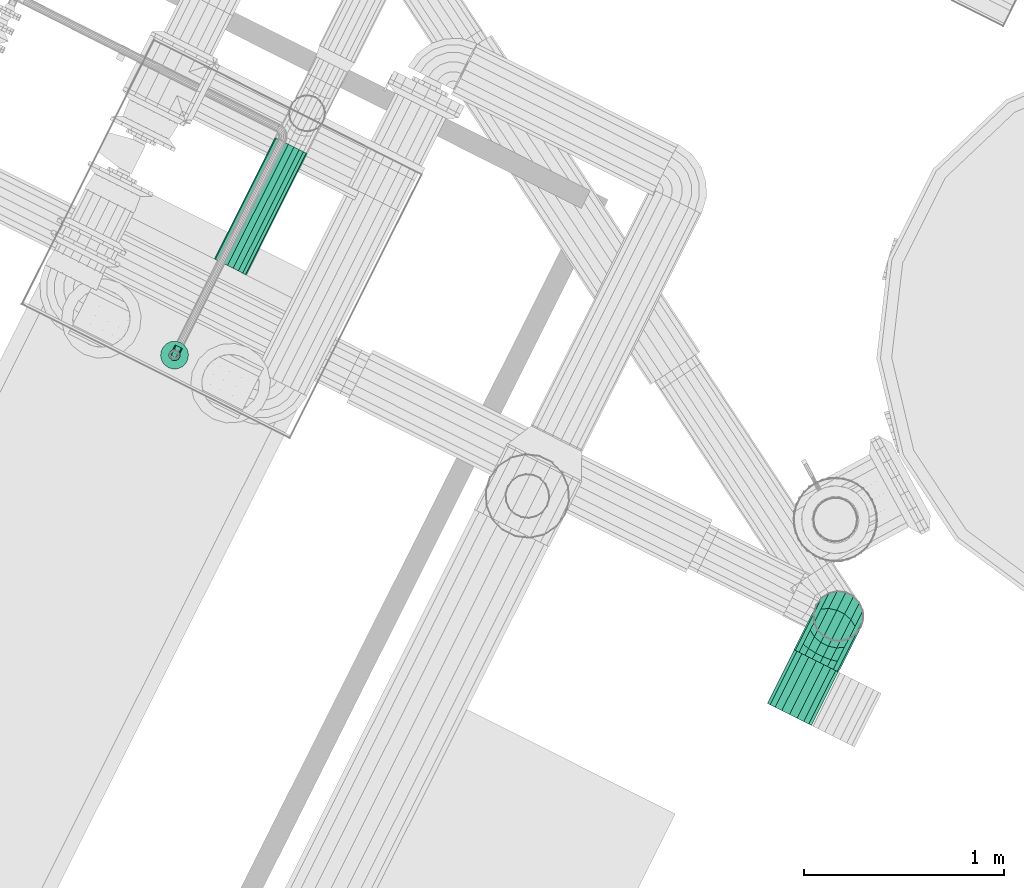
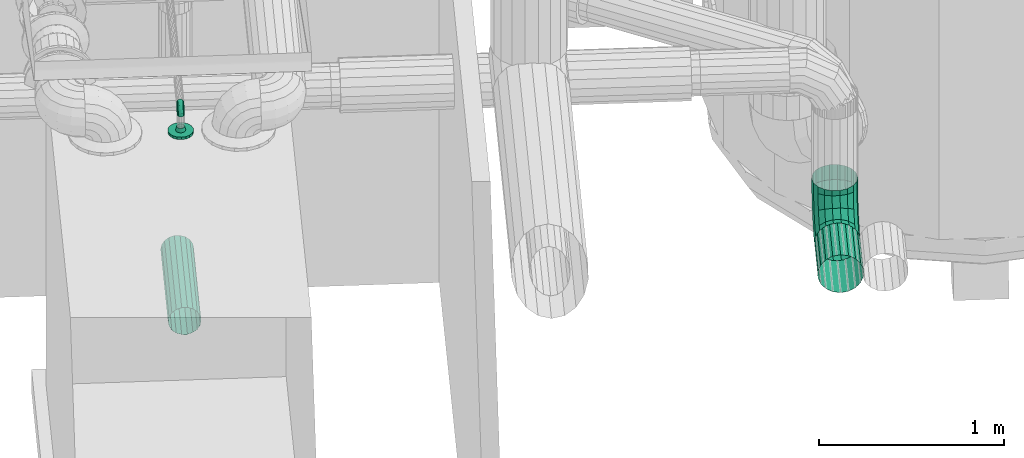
# One storey, part 93 of 206: 3 flow segments, 2 flow fittings.
"""IFC2X3 building model written with IfcOpenShell, lengths in metres."""

import ifcopenshell
import ifcopenshell.guid

model = None  # the IFC model being written
_history = None  # IfcOwnerHistory: only IFC2X3 demands one
_inside = {}  # id of a spatial element -> (the spatial element, [elements in it])
_under = {}  # id of a project, library or spatial element -> (it, [spatial elements below it])
_declared = {}  # id of a project -> (the project, [libraries it declares])
_typed = {}  # id of a type object -> (the type object, [elements of that type])
_made_of = {}  # id of a material, layer set ... -> (it, [elements and type objects made of it])


def new_model(schema):
    """Start an empty IFC model of exactly this schema.

    Asked for "IFC4X3", IfcOpenShell would pick the latest addendum, in which some entities
    have other attributes; the version numbers below select the first issue.
    IFC2X3 requires an IfcOwnerHistory on every rooted entity: one is made here for all.
    """
    global model, _history
    if schema == "IFC4X3":
        model = ifcopenshell.file(schema_version=(4, 3, 0, 0))
    else:
        model = ifcopenshell.file(schema=schema)
    _inside.clear()
    _under.clear()
    _declared.clear()
    _typed.clear()
    _made_of.clear()
    _history = None
    if model.schema == "IFC2X3":
        org = make("IfcOrganization", Name="unknown")
        user = make(
            "IfcPersonAndOrganization",
            ThePerson=make("IfcPerson", FamilyName="unknown"),
            TheOrganization=org,
        )
        app = make(
            "IfcApplication",
            ApplicationDeveloper=org,
            Version="unknown",
            ApplicationFullName="unknown",
            ApplicationIdentifier="unknown",
        )
        _history = make(
            "IfcOwnerHistory",
            OwningUser=user,
            OwningApplication=app,
            ChangeAction="ADDED",
            CreationDate=0,
        )
    return model


def make(cls, **values):
    """One entity of the class cls with the attributes given. An attribute that is None is left unset."""
    return model.create_entity(
        cls, **{name: value for name, value in values.items() if value is not None}
    )


def rooted(cls, **values):
    """An entity with a GlobalId (a new one), such as an element, a storey or a relation."""
    return make(cls, GlobalId=ifcopenshell.guid.new(), OwnerHistory=_history, **values)


def si_unit(unit_type, name, prefix=None):
    """IfcSIUnit, for example si_unit("LENGTHUNIT", "METRE", prefix="MILLI")."""
    return make("IfcSIUnit", UnitType=unit_type, Prefix=prefix, Name=name)


def derived_unit(unit_type, elements):
    """IfcDerivedUnit: a product of units, each with its exponent."""
    return make(
        "IfcDerivedUnit",
        Elements=[
            make("IfcDerivedUnitElement", Unit=unit, Exponent=power)
            for unit, power in elements
        ],
        UnitType=unit_type,
    )


def assignment(units):
    """IfcUnitAssignment: the units of a project."""
    return None if units is None else make("IfcUnitAssignment", Units=units)


def point(xyz):
    """IfcCartesianPoint."""
    return None if xyz is None else make("IfcCartesianPoint", Coordinates=xyz)


def direction(xyz):
    """IfcDirection."""
    return None if xyz is None else make("IfcDirection", DirectionRatios=xyz)


def frame(location, z_axis=None, x_axis=None):
    """IfcAxis2Placement3D, a coordinate frame: its origin and axes. An axis left out is left unset."""
    return make(
        "IfcAxis2Placement3D",
        Location=point(location),
        Axis=direction(z_axis),
        RefDirection=direction(x_axis),
    )


def origin():
    """The frame at (0, 0, 0) with its axes left unset."""
    return frame((0.0, 0.0, 0.0))


def place(relative_to, where):
    """IfcLocalPlacement: puts the frame where relative to a parent placement (None: the world)."""
    return make(
        "IfcLocalPlacement", PlacementRelTo=relative_to, RelativePlacement=where
    )


def context(
    kind, dimensions, precision=None, world=None, true_north=None, identifier=None
):
    """IfcGeometricRepresentationContext, for example the 3D "Model" context."""
    return make(
        "IfcGeometricRepresentationContext",
        ContextIdentifier=identifier,
        ContextType=kind,
        CoordinateSpaceDimension=dimensions,
        Precision=precision,
        WorldCoordinateSystem=world,
        TrueNorth=true_north,
    )


def subcontext(parent, identifier, kind, view, scale=None):
    """IfcGeometricRepresentationSubContext, for example "Body" below "Model"."""
    return make(
        "IfcGeometricRepresentationSubContext",
        ContextIdentifier=identifier,
        ContextType=kind,
        ParentContext=parent,
        TargetScale=scale,
        TargetView=view,
    )


def project(units=None, contexts=None):
    """IfcProject with its units and contexts."""
    return rooted(
        "IfcProject",
        Name="project",
        RepresentationContexts=contexts,
        UnitsInContext=assignment(units),
    )


def spatial(cls, under=None, at=None, **own):
    """A site, building, storey or space (cls), placed at a placement, below another one or the project."""
    s = rooted(cls, ObjectPlacement=at, **own)
    if under is not None:
        _under.setdefault(under.id(), (under, []))[1].append(s)
    return s


def faces_of(points, faces, orient=None, outer=None):
    """IfcFace entities. A face is a list of loops; a loop is a list of indices into points, from 0.

    orient and outer hold one flag for each loop. By default every Orientation is true, the
    first loop of a face is its IfcFaceOuterBound and the others are IfcFaceBound.
    """
    made = []
    for i, loops in enumerate(faces):
        bounds = []
        for j, loop in enumerate(loops):
            is_outer = j == 0 if outer is None else outer[i][j]
            bounds.append(
                make(
                    "IfcFaceOuterBound" if is_outer else "IfcFaceBound",
                    Bound=make("IfcPolyLoop", Polygon=[points[k] for k in loop]),
                    Orientation=True if orient is None else orient[i][j],
                )
            )
        made.append(make("IfcFace", Bounds=bounds))
    return made


def face_set(faces, orient=None, outer=None):
    """The faces of one IfcConnectedFaceSet. surface_model builds it on its shared points."""
    return ("IfcConnectedFaceSet", faces, orient, outer)


def surface_model(cls, points, shells):
    """IfcFaceBasedSurfaceModel or IfcShellBasedSurfaceModel (cls): surfaces that need not close."""
    shared = [point(p) for p in points]
    made = [make(c, CfsFaces=faces_of(shared, fs, o, b)) for c, fs, o, b in shells]
    if cls == "IfcFaceBasedSurfaceModel":
        return make(cls, FbsmFaces=made)
    return make(cls, SbsmBoundary=made)


def shape(context_of_items, identifier, shape_type, items):
    """IfcShapeRepresentation: the items that make up one representation, for example the "Body"."""
    return make(
        "IfcShapeRepresentation",
        ContextOfItems=context_of_items,
        RepresentationIdentifier=identifier,
        RepresentationType=shape_type,
        Items=items,
    )


def source(mapping_origin, context_of_items, identifier, shape_type, items):
    """IfcRepresentationMap: a shape defined once, which mapped items show again and again."""
    return make(
        "IfcRepresentationMap",
        MappingOrigin=mapping_origin,
        MappedRepresentation=shape(context_of_items, identifier, shape_type, items),
    )


def transform(
    local_origin,
    x_axis=None,
    y_axis=None,
    z_axis=None,
    scale=None,
    scale2=None,
    scale3=None,
    uniform=True,
):
    """IfcCartesianTransformationOperator3D, or its non-uniform kind. x_axis, y_axis, z_axis: its Axis1, 2, 3."""
    if uniform:
        return make(
            "IfcCartesianTransformationOperator3D",
            Axis1=direction(x_axis),
            Axis2=direction(y_axis),
            LocalOrigin=point(local_origin),
            Scale=scale,
            Axis3=direction(z_axis),
        )
    return make(
        "IfcCartesianTransformationOperator3DnonUniform",
        Axis1=direction(x_axis),
        Axis2=direction(y_axis),
        LocalOrigin=point(local_origin),
        Scale=scale,
        Axis3=direction(z_axis),
        Scale2=scale2,
        Scale3=scale3,
    )


def mapped(mapping_source, mapping_target):
    """IfcMappedItem: shows the shape of a source again, moved by a transform."""
    return make(
        "IfcMappedItem", MappingSource=mapping_source, MappingTarget=mapping_target
    )


def material(Name=None, Category=None):
    """IfcMaterial."""
    return make("IfcMaterial", Name=Name, Category=Category)


def made_of(thing, what):
    """Note that an element or type object is made of a material, layer set ...; save() writes the relation."""
    if what is not None:
        _made_of.setdefault(what.id(), (what, []))[1].append(thing)
    return thing


def type_object(cls, material=None, **own):
    """A type object (cls), such as IfcWallType, which elements share."""
    return made_of(rooted(cls, **own), material)


def type_shapes(of_type, sources):
    """Give a type object the sources (RepresentationMaps) that its elements show as mapped items."""
    of_type.RepresentationMaps = sources


def element(
    cls,
    number,
    at=None,
    inside=None,
    cuts=None,
    type_object=None,
    material=None,
    context=None,
    identifier="Body",
    shape_type=None,
    held_by="IfcProductDefinitionShape",
    body=None,
    shapes=None,
    **own,
):
    """One element of the class cls, such as IfcWall. Its Tag is "e" and its number.

    at: its placement. inside: the storey or other place that contains it. cuts: it is an
    opening in that element (IfcRelVoidsElement). A single representation is given by context,
    identifier, shape_type and body (its items); several are given by shapes. held_by: the class
    of the entity that holds the representations. save() writes the other relations.
    """
    e = rooted(cls, Tag="e%d" % number, ObjectPlacement=at, **own)
    if body is not None:
        shapes = [shape(context, identifier, shape_type, body)]
    if shapes is not None:
        e.Representation = make(held_by, Representations=shapes)
    if inside is not None:
        _inside.setdefault(inside.id(), (inside, []))[1].append(e)
    if cuts is not None:
        rooted(
            "IfcRelVoidsElement", RelatingBuildingElement=cuts, RelatedOpeningElement=e
        )
    if type_object is not None:
        _typed.setdefault(type_object.id(), (type_object, []))[1].append(e)
    return made_of(e, material)


def aggregate(whole, parts):
    """IfcRelAggregates: a whole, such as a stair, and the parts it consists of."""
    return rooted("IfcRelAggregates", RelatingObject=whole, RelatedObjects=parts)


def save(model, path):
    """Write the relations noted so far, then the file.

    IfcRelAggregates (storeys below a building ...), IfcRelContainedInSpatialStructure (elements
    in a storey), IfcRelDefinesByType, IfcRelAssociatesMaterial and IfcRelDeclares: one each for
    every whole, place, type object, material and project.
    """
    for whole, parts in _under.values():
        aggregate(whole, parts)
    for where, things in _inside.values():
        rooted(
            "IfcRelContainedInSpatialStructure",
            RelatedElements=things,
            RelatingStructure=where,
        )
    for kind, things in _typed.values():
        rooted("IfcRelDefinesByType", RelatedObjects=things, RelatingType=kind)
    for what, things in _made_of.values():
        rooted("IfcRelAssociatesMaterial", RelatedObjects=things, RelatingMaterial=what)
    for by, libraries in _declared.values():
        rooted("IfcRelDeclares", RelatingContext=by, RelatedDefinitions=libraries)
    model.write(path)


model = new_model("IFC2X3")

# Units and contexts
model_context = context("Model", 3, precision=5.2338327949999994e-05, world=origin(), true_north=direction((0.0, 1.0)))
body_context = subcontext(model_context, "Body", "Model", "MODEL_VIEW")
ifc_project = project(units=[si_unit("LENGTHUNIT", "METRE"), si_unit("AREAUNIT", "SQUARE_METRE"), si_unit("VOLUMEUNIT", "CUBIC_METRE"), si_unit("MASSUNIT", "GRAM", prefix="KILO"), si_unit("PLANEANGLEUNIT", "RADIAN"), derived_unit("THERMALTRANSMITTANCEUNIT", [(si_unit("MASSUNIT", "GRAM", prefix="KILO"), 1), (si_unit("THERMODYNAMICTEMPERATUREUNIT", "KELVIN"), -1), (si_unit("TIMEUNIT", "SECOND"), -3)])], contexts=[model_context])

# Site, building, storey
site_placement = place(None, frame((0.0, 0.0, 0.0), z_axis=(0.0, 0.0, 1.0), x_axis=(0.8939966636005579, -0.4480736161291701, 0.0)))
site = spatial("IfcSite", under=ifc_project, at=site_placement, Name="Default", CompositionType="ELEMENT")
building_placement = place(site_placement, origin())
building = spatial("IfcBuilding", under=site, at=building_placement, CompositionType="ELEMENT")
storey_placement = place(building_placement, origin())
storey = spatial("IfcBuildingStorey", under=building, at=storey_placement, Name="Erdgeschoss", CompositionType="ELEMENT", Elevation=0.0)

# Flow segment
ifc_material_1 = material(Name="IfcSurfaceStyle #251447")
distribution_element_type_1 = type_object("IfcDistributionElementType", Name="Wickelfalzrohr 281979:Wickelfalzrohr 281979", material=ifc_material_1)
shared_shape_1 = source(origin(), body_context, "Body", "SurfaceModel", [
    surface_model("IfcFaceBasedSurfaceModel", [(34.157571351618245, 8.244603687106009, 1.3549999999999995), (34.200323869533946, 8.244603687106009, 1.3474615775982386), (34.200323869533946, 8.544603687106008, 1.3474615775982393), (34.157571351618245, 8.54460368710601, 1.355), (34.237919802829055, 8.244603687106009, 1.3257555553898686), (34.237919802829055, 8.54460368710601, 1.3257555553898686), (34.2658245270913, 8.244603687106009, 1.2924999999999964), (34.2658245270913, 8.54460368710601, 1.2924999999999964), (34.28067232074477, 8.244603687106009, 1.2517060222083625), (34.28067232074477, 8.54460368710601, 1.2517060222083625), (34.280672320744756, 8.244603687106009, 1.2082939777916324), (34.280672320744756, 8.54460368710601, 1.2082939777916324), (34.2658245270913, 8.244603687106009, 1.1674999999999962), (34.2658245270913, 8.54460368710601, 1.1674999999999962), (34.237919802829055, 8.244603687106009, 1.1342444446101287), (34.237919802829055, 8.54460368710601, 1.1342444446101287), (34.200323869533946, 8.244603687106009, 1.112538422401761), (34.200323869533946, 8.54460368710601, 1.112538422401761), (34.15757135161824, 8.244603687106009, 1.105000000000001), (34.157571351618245, 8.54460368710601, 1.1050000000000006), (34.114818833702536, 8.244603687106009, 1.1125384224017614), (34.114818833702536, 8.54460368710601, 1.1125384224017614), (34.07722290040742, 8.244603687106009, 1.1342444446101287), (34.07722290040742, 8.54460368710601, 1.1342444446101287), (34.04931817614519, 8.244603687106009, 1.1674999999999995), (34.04931817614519, 8.54460368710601, 1.1674999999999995), (34.03447038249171, 8.244603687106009, 1.208293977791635), (34.03447038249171, 8.54460368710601, 1.208293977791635), (34.03447038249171, 8.244603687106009, 1.2517060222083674), (34.03447038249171, 8.54460368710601, 1.2517060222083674), (34.049318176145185, 8.244603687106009, 1.2925000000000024), (34.049318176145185, 8.54460368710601, 1.2925000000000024), (34.07722290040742, 8.244603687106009, 1.3257555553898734), (34.07722290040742, 8.54460368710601, 1.3257555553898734), (34.11481883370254, 8.244603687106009, 1.3474615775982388), (34.11481883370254, 8.54460368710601, 1.3474615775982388)], [face_set([[[0, 1, 2, 3]], [[1, 4, 5, 2]], [[4, 6, 7, 5]], [[6, 8, 9, 7]], [[8, 10, 11, 9]], [[10, 12, 13, 11]], [[12, 14, 15, 13]], [[14, 16, 17, 15]], [[16, 18, 19, 17]], [[18, 20, 21, 19]], [[20, 22, 23, 21]], [[22, 24, 25, 23]], [[24, 26, 27, 25]], [[26, 28, 29, 27]], [[28, 30, 31, 29]], [[30, 32, 33, 31]], [[32, 34, 35, 33]], [[34, 0, 3, 35]]])]),
])
type_shapes(distribution_element_type_1, [shared_shape_1])
flow_segment_1_placement = place(storey_placement, origin())
element("IfcFlowSegment", 1, at=flow_segment_1_placement, inside=storey, type_object=distribution_element_type_1, material=ifc_material_1, Name="Wickelfalzrohr", ObjectType="Wickelfalzrohr", context=body_context, shape_type="MappedRepresentation", body=[
    mapped(shared_shape_1, transform((0.0, 0.0, 0.0), scale=1.0)),
])

# Flow fitting
distribution_element_type_2 = type_object("IfcDistributionElementType", material=ifc_material_1)
shared_shape_2 = source(origin(), body_context, "Body", "SurfaceModel", [
    surface_model("IfcFaceBasedSurfaceModel", [(34.03257135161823, 8.54460368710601, 1.23), (34.040109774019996, 8.54460368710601, 1.2727525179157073), (34.040109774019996, 8.600135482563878, 1.2727525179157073), (34.03257135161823, 8.611590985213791, 1.23), (34.061815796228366, 8.54460368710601, 1.3103484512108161), (34.061815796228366, 8.59006168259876, 1.3103484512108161), (34.09507135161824, 8.54460368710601, 1.3382531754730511), (34.09507135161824, 8.58258463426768, 1.3382531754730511), (34.13586532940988, 8.54460368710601, 1.3531009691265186), (34.13586532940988, 8.57860617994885, 1.3531009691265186), (34.179277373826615, 8.54460368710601, 1.3531009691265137), (34.179277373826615, 8.57860617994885, 1.3531009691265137), (34.22007135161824, 8.54460368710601, 1.3382531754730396), (34.22007135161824, 8.58258463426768, 1.3382531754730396), (34.253326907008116, 8.54460368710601, 1.3103484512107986), (34.253326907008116, 8.59006168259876, 1.3103484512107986), (34.27503292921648, 8.54460368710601, 1.272752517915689), (34.27503292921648, 8.600135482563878, 1.272752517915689), (34.28257135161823, 8.54460368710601, 1.2299999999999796), (34.28257135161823, 8.611590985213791, 1.2299999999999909), (34.27503292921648, 8.54460368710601, 1.1872474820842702), (34.27503292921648, 8.623046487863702, 1.1872474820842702), (34.253326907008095, 8.54460368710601, 1.1496515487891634), (34.253326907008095, 8.633120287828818, 1.1496515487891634), (34.22007135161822, 8.54460368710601, 1.1217468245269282), (34.22007135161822, 8.640597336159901, 1.1217468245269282), (34.17927737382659, 8.54460368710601, 1.1068990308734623), (34.17927737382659, 8.644575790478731, 1.1068990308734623), (34.13586532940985, 8.54460368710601, 1.1068990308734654), (34.13586532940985, 8.644575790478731, 1.1068990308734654), (34.09507135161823, 8.54460368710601, 1.12174682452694), (34.09507135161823, 8.640597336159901, 1.12174682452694), (34.06181579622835, 8.54460368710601, 1.1496515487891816), (34.06181579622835, 8.633120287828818, 1.1496515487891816), (34.04010977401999, 8.54460368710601, 1.1872474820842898), (34.04010977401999, 8.623046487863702, 1.1872474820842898), (34.04010977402, 8.69631937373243, 1.3282843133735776), (34.032571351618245, 8.727616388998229, 1.2969872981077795), (34.06181579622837, 8.66879724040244, 1.3558064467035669), (34.09507135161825, 8.648369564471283, 1.3762341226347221), (34.13586532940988, 8.637500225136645, 1.3871034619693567), (34.17927737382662, 8.637500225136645, 1.3871034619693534), (34.220071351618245, 8.648369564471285, 1.3762341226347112), (34.253326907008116, 8.66879724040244, 1.3558064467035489), (34.275032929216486, 8.696319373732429, 1.3282843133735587), (34.28257135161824, 8.727616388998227, 1.2969872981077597), (34.27503292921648, 8.758913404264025, 1.265690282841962), (34.25332690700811, 8.786435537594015, 1.2381681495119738), (34.22007135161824, 8.806863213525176, 1.217740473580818), (34.17927737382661, 8.817732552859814, 1.2068711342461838), (34.13586532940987, 8.817732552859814, 1.2068711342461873), (34.09507135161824, 8.806863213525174, 1.2177404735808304), (34.06181579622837, 8.786435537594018, 1.2381681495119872), (34.040109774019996, 8.758913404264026, 1.2656902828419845), (34.04010977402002, 8.751851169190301, 1.4244682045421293), (34.03257135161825, 8.794603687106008, 1.4130127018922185), (34.06181579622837, 8.714255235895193, 1.434542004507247), (34.09507135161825, 8.686350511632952, 1.4420190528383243), (34.13586532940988, 8.671502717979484, 1.4459975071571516), (34.17927737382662, 8.671502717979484, 1.4459975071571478), (34.22007135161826, 8.686350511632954, 1.442019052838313), (34.253326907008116, 8.714255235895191, 1.4345420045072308), (34.27503292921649, 8.751851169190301, 1.4244682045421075), (34.28257135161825, 8.794603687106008, 1.4130127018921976), (34.27503292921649, 8.837356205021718, 1.4015571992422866), (34.25332690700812, 8.874952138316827, 1.3914833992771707), (34.22007135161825, 8.902856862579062, 1.3840063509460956), (34.17927737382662, 8.917704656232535, 1.3800278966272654), (34.13586532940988, 8.917704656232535, 1.3800278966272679), (34.09507135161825, 8.902856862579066, 1.3840063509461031), (34.06181579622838, 8.874952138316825, 1.3914833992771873), (34.04010977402, 8.837356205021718, 1.4015571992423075), (34.04010977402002, 8.751851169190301, 1.4799999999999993), (34.03257135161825, 8.79460368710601, 1.4799999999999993), (34.06181579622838, 8.714255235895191, 1.4799999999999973), (34.095071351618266, 8.686350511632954, 1.4799999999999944), (34.13586532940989, 8.671502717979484, 1.4799999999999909), (34.17927737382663, 8.671502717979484, 1.4799999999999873), (34.22007135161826, 8.686350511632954, 1.4799999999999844), (34.25332690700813, 8.714255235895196, 1.47999999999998), (34.2750329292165, 8.751851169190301, 1.4799999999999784), (34.28257135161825, 8.79460368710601, 1.4799999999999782), (34.27503292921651, 8.837356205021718, 1.4799999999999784), (34.25332690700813, 8.874952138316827, 1.47999999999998), (34.22007135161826, 8.902856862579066, 1.479999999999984), (34.17927737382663, 8.917704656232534, 1.4799999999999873), (34.13586532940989, 8.917704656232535, 1.479999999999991), (34.09507135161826, 8.902856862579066, 1.4799999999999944), (34.06181579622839, 8.874952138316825, 1.4799999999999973), (34.04010977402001, 8.83735620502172, 1.4799999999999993)], [face_set([[[0, 1, 2, 3]], [[1, 4, 5, 2]], [[4, 6, 7, 5]], [[6, 8, 9, 7]], [[8, 10, 11, 9]], [[10, 12, 13, 11]], [[12, 14, 15, 13]], [[14, 16, 17, 15]], [[16, 18, 19, 17]], [[18, 20, 21, 19]], [[20, 22, 23, 21]], [[22, 24, 25, 23]], [[24, 26, 27, 25]], [[26, 28, 29, 27]], [[28, 30, 31, 29]], [[30, 32, 33, 31]], [[32, 34, 35, 33]], [[34, 0, 3, 35]], [[3, 2, 36, 37]], [[2, 5, 38, 36]], [[5, 7, 39, 38]], [[7, 9, 40, 39]], [[9, 11, 41, 40]], [[11, 13, 42, 41]], [[13, 15, 43, 42]], [[15, 17, 44, 43]], [[17, 19, 45, 44]], [[19, 21, 46, 45]], [[21, 23, 47, 46]], [[23, 25, 48, 47]], [[25, 27, 49, 48]], [[27, 29, 50, 49]], [[29, 31, 51, 50]], [[31, 33, 52, 51]], [[33, 35, 53, 52]], [[35, 3, 37, 53]], [[37, 36, 54, 55]], [[36, 38, 56, 54]], [[38, 39, 57, 56]], [[39, 40, 58, 57]], [[40, 41, 59, 58]], [[41, 42, 60, 59]], [[42, 43, 61, 60]], [[43, 44, 62, 61]], [[44, 45, 63, 62]], [[45, 46, 64, 63]], [[46, 47, 65, 64]], [[47, 48, 66, 65]], [[48, 49, 67, 66]], [[49, 50, 68, 67]], [[50, 51, 69, 68]], [[51, 52, 70, 69]], [[52, 53, 71, 70]], [[53, 37, 55, 71]], [[55, 54, 72, 73]], [[54, 56, 74, 72]], [[56, 57, 75, 74]], [[57, 58, 76, 75]], [[58, 59, 77, 76]], [[59, 60, 78, 77]], [[60, 61, 79, 78]], [[61, 62, 80, 79]], [[62, 63, 81, 80]], [[63, 64, 82, 81]], [[64, 65, 83, 82]], [[65, 66, 84, 83]], [[66, 67, 85, 84]], [[67, 68, 86, 85]], [[68, 69, 87, 86]], [[69, 70, 88, 87]], [[70, 71, 89, 88]], [[71, 55, 73, 89]]])]),
])
type_shapes(distribution_element_type_2, [shared_shape_2])
flow_fitting_1_placement = place(storey_placement, origin())
element("IfcFlowFitting", 2, at=flow_fitting_1_placement, inside=storey, type_object=distribution_element_type_2, material=ifc_material_1, Name="Segmentbogen 4 teilig", ObjectType="Segmentbogen 4 teilig", context=body_context, shape_type="MappedRepresentation", body=[
    mapped(shared_shape_2, transform((0.0, 0.0, 0.0), scale=1.0)),
])

# Flow segments
distribution_element_type_3 = type_object("IfcDistributionElementType", Name="Wickelfalzrohr 329044:Wickelfalzrohr 329044", material=ifc_material_1)
shared_shape_3 = source(origin(), body_context, "Body", "SurfaceModel", [
    surface_model("IfcFaceBasedSurfaceModel", [(30.560000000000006, 9.673208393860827, 0.5399999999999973), (30.56542766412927, 9.673208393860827, 0.5092181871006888), (30.56542766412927, 8.993208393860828, 0.5092181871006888), (30.560000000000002, 8.993208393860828, 0.5399999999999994), (30.581056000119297, 9.673208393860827, 0.4821491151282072), (30.581056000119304, 8.993208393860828, 0.48214911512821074), (30.605000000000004, 9.673208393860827, 0.46205771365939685), (30.60500000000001, 8.993208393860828, 0.4620577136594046), (30.634371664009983, 9.673208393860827, 0.4513673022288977), (30.63437166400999, 8.993208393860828, 0.4513673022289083), (30.665628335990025, 9.673208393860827, 0.45136730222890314), (30.66562833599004, 8.993208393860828, 0.45136730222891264), (30.695000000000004, 9.673208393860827, 0.46205771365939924), (30.695000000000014, 8.993208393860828, 0.4620577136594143), (30.718943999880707, 9.673208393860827, 0.4821491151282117), (30.71894399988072, 8.993208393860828, 0.48214911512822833), (30.73457233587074, 9.673208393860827, 0.509218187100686), (30.73457233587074, 8.993208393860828, 0.5092181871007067), (30.74, 9.673208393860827, 0.539999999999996), (30.740000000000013, 8.993208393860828, 0.5400000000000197), (30.734572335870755, 9.673208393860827, 0.5707818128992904), (30.734572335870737, 8.993208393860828, 0.5707818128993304), (30.718943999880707, 9.673208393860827, 0.5978508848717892), (30.718943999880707, 8.993208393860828, 0.5978508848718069), (30.695000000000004, 9.673208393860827, 0.6179422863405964), (30.695, 8.993208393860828, 0.6179422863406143), (30.665628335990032, 9.673208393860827, 0.6286326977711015), (30.66562833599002, 8.993208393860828, 0.6286326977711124), (30.63437166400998, 9.673208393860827, 0.628632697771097), (30.634371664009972, 8.993208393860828, 0.6286326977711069), (30.605, 9.673208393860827, 0.6179422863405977), (30.605, 8.993208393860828, 0.6179422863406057), (30.5810560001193, 9.673208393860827, 0.5978508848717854), (30.581056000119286, 8.993208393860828, 0.597850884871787), (30.565427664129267, 9.673208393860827, 0.5707818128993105), (30.565427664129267, 8.993208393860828, 0.5707818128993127)], [face_set([[[0, 1, 2, 3]], [[1, 4, 5, 2]], [[4, 6, 7, 5]], [[6, 8, 9, 7]], [[8, 10, 11, 9]], [[10, 12, 13, 11]], [[12, 14, 15, 13]], [[14, 16, 17, 15]], [[16, 18, 19, 17]], [[18, 20, 21, 19]], [[20, 22, 23, 21]], [[22, 24, 25, 23]], [[24, 26, 27, 25]], [[26, 28, 29, 27]], [[28, 30, 31, 29]], [[30, 32, 33, 31]], [[32, 34, 35, 33]], [[34, 0, 3, 35]]])]),
])
type_shapes(distribution_element_type_3, [shared_shape_3])
flow_segment_2_placement = place(storey_placement, origin())
element("IfcFlowSegment", 3, at=flow_segment_2_placement, inside=storey, type_object=distribution_element_type_3, material=ifc_material_1, Name="Wickelfalzrohr", ObjectType="Wickelfalzrohr", context=body_context, shape_type="MappedRepresentation", body=[
    mapped(shared_shape_3, transform((0.0, 0.0, 0.0), scale=1.0)),
])
ifc_material_2 = material(Name="IfcSurfaceStyle #352577")
distribution_element_type_4 = type_object("IfcDistributionElementType", Name="Rohrbogen 612311:Rohrbogen 612311", material=ifc_material_2)
shared_shape_4 = source(origin(), body_context, "Body", "SurfaceModel", [
    surface_model("IfcFaceBasedSurfaceModel", [(30.59800000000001, 8.452370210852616, 2.2660000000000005), (30.605250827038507, 8.453648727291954, 2.2660000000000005), (30.605250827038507, 8.456973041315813, 2.2869888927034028), (30.59800000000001, 8.45575709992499, 2.287383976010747), (30.605250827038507, 8.466620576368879, 2.3059232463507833), (30.59800000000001, 8.465586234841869, 2.3066747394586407), (30.605250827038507, 8.481646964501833, 2.3209496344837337), (30.59800000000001, 8.480895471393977, 2.321983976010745), (30.605250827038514, 8.500581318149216, 2.3305971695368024), (30.59800000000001, 8.500186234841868, 2.331813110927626), (30.605250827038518, 8.521570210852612, 2.333921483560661), (30.598000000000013, 8.521570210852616, 2.335200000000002), (30.61162709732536, 8.457330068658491, 2.266), (30.61162709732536, 8.460474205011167, 2.2858512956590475), (30.61162709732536, 8.469598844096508, 2.303759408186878), (30.61162709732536, 8.48381080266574, 2.3179713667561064), (30.611627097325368, 8.501718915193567, 2.3270960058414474), (30.61162709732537, 8.521570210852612, 2.3302401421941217), (30.616359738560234, 8.462970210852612, 2.266000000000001), (30.616359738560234, 8.465838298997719, 2.2841083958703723), (30.616359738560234, 8.474161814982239, 2.3004442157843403), (30.616359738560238, 8.487125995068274, 2.3134083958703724), (30.616359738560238, 8.503461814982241, 2.321731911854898), (30.616359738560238, 8.52157021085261, 2.3245999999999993), (30.618877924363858, 8.469888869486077, 2.2660000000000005), (30.61887792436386, 8.472418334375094, 2.2819704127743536), (30.618877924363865, 8.479759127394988, 2.2963775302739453), (30.618877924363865, 8.49119268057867, 2.3078110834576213), (30.61887792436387, 8.505599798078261, 2.3151518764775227), (30.61887792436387, 8.521570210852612, 2.3176813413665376), (30.618877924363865, 8.477251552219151, 2.266000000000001), (30.61887792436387, 8.479420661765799, 2.2796952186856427), (30.618877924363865, 8.485715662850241, 2.2920498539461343), (30.618877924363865, 8.495520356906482, 2.301854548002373), (30.61887792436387, 8.507874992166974, 2.308149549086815), (30.61887792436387, 8.521570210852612, 2.3103186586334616), (30.616359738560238, 8.484170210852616, 2.266), (30.616359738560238, 8.486000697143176, 2.277557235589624), (30.616359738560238, 8.491312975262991, 2.2879831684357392), (30.616359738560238, 8.499587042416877, 2.2962572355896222), (30.616359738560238, 8.51001297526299, 2.301569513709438), (30.616359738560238, 8.521570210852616, 2.3034), (30.611627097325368, 8.489810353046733, 2.2660000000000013), (30.611627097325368, 8.491364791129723, 2.275814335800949), (30.611627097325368, 8.495875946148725, 2.2846679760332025), (30.61162709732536, 8.50290223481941, 2.2916942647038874), (30.611627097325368, 8.511755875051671, 2.296205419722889), (30.611627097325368, 8.521570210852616, 2.297759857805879), (30.605250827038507, 8.493491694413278, 2.2659999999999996), (30.605250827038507, 8.494865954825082, 2.2746767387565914), (30.605250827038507, 8.498854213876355, 2.2825041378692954), (30.605250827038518, 8.50506607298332, 2.2887159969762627), (30.605250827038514, 8.512893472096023, 2.292704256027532), (30.605250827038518, 8.521570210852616, 2.2940785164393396), (30.59800000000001, 8.494770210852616, 2.2660000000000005), (30.59800000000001, 8.496081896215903, 2.274281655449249), (30.59800000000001, 8.499888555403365, 2.281752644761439), (30.598000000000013, 8.505817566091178, 2.2876816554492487), (30.598000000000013, 8.513288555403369, 2.2914883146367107), (30.598000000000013, 8.521570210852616, 2.292799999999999), (30.5907491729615, 8.493491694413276, 2.266), (30.5907491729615, 8.49486595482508, 2.274676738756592), (30.5907491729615, 8.498854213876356, 2.2825041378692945), (30.59074917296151, 8.505066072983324, 2.2887159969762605), (30.590749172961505, 8.512893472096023, 2.2927042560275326), (30.590749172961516, 8.521570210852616, 2.294078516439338), (30.58437290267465, 8.489810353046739, 2.2660000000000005), (30.58437290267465, 8.491364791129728, 2.2758143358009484), (30.58437290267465, 8.49587594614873, 2.284667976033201), (30.58437290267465, 8.502902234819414, 2.291694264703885), (30.58437290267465, 8.511755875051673, 2.296205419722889), (30.58437290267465, 8.521570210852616, 2.297759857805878), (30.57964026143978, 8.484170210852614, 2.266), (30.57964026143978, 8.486000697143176, 2.277557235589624), (30.57964026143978, 8.491312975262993, 2.2879831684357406), (30.57964026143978, 8.499587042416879, 2.2962572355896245), (30.57964026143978, 8.510012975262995, 2.3015695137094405), (30.579640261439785, 8.521570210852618, 2.3034), (30.577122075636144, 8.47725155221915, 2.2660000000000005), (30.577122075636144, 8.479420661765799, 2.2796952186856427), (30.577122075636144, 8.485715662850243, 2.2920498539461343), (30.577122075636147, 8.495520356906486, 2.3018545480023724), (30.577122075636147, 8.507874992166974, 2.3081495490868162), (30.577122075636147, 8.521570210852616, 2.3103186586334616), (30.57712207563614, 8.469888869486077, 2.2660000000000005), (30.577122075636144, 8.472418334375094, 2.2819704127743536), (30.577122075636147, 8.479759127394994, 2.2963775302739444), (30.577122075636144, 8.491192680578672, 2.307811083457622), (30.577122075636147, 8.505599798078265, 2.3151518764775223), (30.577122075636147, 8.521570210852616, 2.3176813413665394), (30.57964026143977, 8.462970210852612, 2.2660000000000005), (30.57964026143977, 8.465838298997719, 2.284108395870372), (30.579640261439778, 8.474161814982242, 2.3004442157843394), (30.57964026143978, 8.487125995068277, 2.313408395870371), (30.57964026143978, 8.503461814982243, 2.3217319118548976), (30.57964026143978, 8.521570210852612, 2.3246000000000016), (30.584372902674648, 8.457330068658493, 2.2659999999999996), (30.584372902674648, 8.460474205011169, 2.2858512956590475), (30.584372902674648, 8.469598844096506, 2.303759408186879), (30.584372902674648, 8.48381080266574, 2.317971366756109), (30.58437290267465, 8.50171891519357, 2.3270960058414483), (30.584372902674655, 8.521570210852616, 2.3302401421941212), (30.5907491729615, 8.453648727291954, 2.2659999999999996), (30.5907491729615, 8.456973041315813, 2.2869888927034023), (30.5907491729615, 8.46662057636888, 2.305923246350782), (30.5907491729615, 8.481646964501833, 2.320949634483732), (30.590749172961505, 8.500581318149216, 2.3305971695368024), (30.59074917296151, 8.521570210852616, 2.333921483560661)], [face_set([[[0, 1, 2, 3]], [[3, 2, 4, 5]], [[5, 4, 6, 7]], [[7, 6, 8, 9]], [[9, 8, 10, 11]], [[1, 12, 13, 2]], [[2, 13, 14, 4]], [[4, 14, 15, 6]], [[6, 15, 16, 8]], [[8, 16, 17, 10]], [[12, 18, 19, 13]], [[13, 19, 20, 14]], [[14, 20, 21, 15]], [[15, 21, 22, 16]], [[16, 22, 23, 17]], [[18, 24, 25, 19]], [[19, 25, 26, 20]], [[20, 26, 27, 21]], [[21, 27, 28, 22]], [[22, 28, 29, 23]], [[24, 30, 31, 25]], [[25, 31, 32, 26]], [[26, 32, 33, 27]], [[27, 33, 34, 28]], [[28, 34, 35, 29]], [[30, 36, 37, 31]], [[31, 37, 38, 32]], [[32, 38, 39, 33]], [[33, 39, 40, 34]], [[34, 40, 41, 35]], [[36, 42, 43, 37]], [[37, 43, 44, 38]], [[38, 44, 45, 39]], [[39, 45, 46, 40]], [[40, 46, 47, 41]], [[42, 48, 49, 43]], [[43, 49, 50, 44]], [[44, 50, 51, 45]], [[45, 51, 52, 46]], [[46, 52, 53, 47]], [[48, 54, 55, 49]], [[49, 55, 56, 50]], [[50, 56, 57, 51]], [[51, 57, 58, 52]], [[52, 58, 59, 53]], [[54, 60, 61, 55]], [[55, 61, 62, 56]], [[56, 62, 63, 57]], [[57, 63, 64, 58]], [[58, 64, 65, 59]], [[60, 66, 67, 61]], [[61, 67, 68, 62]], [[62, 68, 69, 63]], [[63, 69, 70, 64]], [[64, 70, 71, 65]], [[66, 72, 73, 67]], [[67, 73, 74, 68]], [[68, 74, 75, 69]], [[69, 75, 76, 70]], [[70, 76, 77, 71]], [[72, 78, 79, 73]], [[73, 79, 80, 74]], [[74, 80, 81, 75]], [[75, 81, 82, 76]], [[76, 82, 83, 77]], [[78, 84, 85, 79]], [[79, 85, 86, 80]], [[80, 86, 87, 81]], [[81, 87, 88, 82]], [[82, 88, 89, 83]], [[84, 90, 91, 85]], [[85, 91, 92, 86]], [[86, 92, 93, 87]], [[87, 93, 94, 88]], [[88, 94, 95, 89]], [[90, 96, 97, 91]], [[91, 97, 98, 92]], [[92, 98, 99, 93]], [[93, 99, 100, 94]], [[94, 100, 101, 95]], [[96, 102, 103, 97]], [[97, 103, 104, 98]], [[98, 104, 105, 99]], [[99, 105, 106, 100]], [[100, 106, 107, 101]], [[102, 0, 3, 103]], [[103, 3, 5, 104]], [[104, 5, 7, 105]], [[105, 7, 9, 106]], [[106, 9, 11, 107]]])]),
])
type_shapes(distribution_element_type_4, [shared_shape_4])
flow_segment_3_placement = place(storey_placement, origin())
element("IfcFlowSegment", 4, at=flow_segment_3_placement, inside=storey, type_object=distribution_element_type_4, material=ifc_material_2, Name="Rohrbogen", ObjectType="Rohrbogen", context=body_context, shape_type="MappedRepresentation", body=[
    mapped(shared_shape_4, transform((0.0, 0.0, 0.0), scale=1.0)),
])

# Flow fitting
distribution_element_type_5 = type_object("IfcDistributionElementType", Name="Flansch 612489:Flansch 612489", material=ifc_material_2)
shared_shape_5 = source(origin(), body_context, "Body", "SurfaceModel", [
    surface_model("IfcFaceBasedSurfaceModel", [(30.61920000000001, 8.473570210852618, 2.1900000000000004), (30.617921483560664, 8.466319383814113, 2.19), (30.624311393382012, 8.463993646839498, 2.1660000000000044), (30.626000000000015, 8.473570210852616, 2.166000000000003), (30.614240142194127, 8.459943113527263, 2.19), (30.619449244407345, 8.455572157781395, 2.1660000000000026), (30.608600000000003, 8.45521047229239, 2.1900000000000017), (30.61200000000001, 8.449321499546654, 2.1660000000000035), (30.60168134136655, 8.452692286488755, 2.1900000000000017), (30.602862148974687, 8.445995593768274, 2.1660000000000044), (30.594318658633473, 8.452692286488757, 2.1900000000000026), (30.593137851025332, 8.445995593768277, 2.166000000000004), (30.587400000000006, 8.45521047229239, 2.1900000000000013), (30.584000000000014, 8.44932149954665, 2.166000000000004), (30.581759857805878, 8.45994311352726, 2.190000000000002), (30.576550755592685, 8.455572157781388, 2.166000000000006), (30.57807851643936, 8.466319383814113, 2.1900000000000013), (30.571688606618, 8.463993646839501, 2.1660000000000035), (30.576800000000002, 8.473570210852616, 2.1900000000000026), (30.570000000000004, 8.473570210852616, 2.1660000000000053), (30.57807851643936, 8.480821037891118, 2.190000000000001), (30.571688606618, 8.483146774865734, 2.166000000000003), (30.581759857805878, 8.487197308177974, 2.190000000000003), (30.576550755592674, 8.49156826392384, 2.166000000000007), (30.587400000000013, 8.491929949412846, 2.1900000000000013), (30.584000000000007, 8.497818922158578, 2.166000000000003), (30.59431865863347, 8.494448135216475, 2.1900000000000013), (30.593137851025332, 8.501144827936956, 2.166000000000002), (30.60168134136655, 8.494448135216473, 2.190000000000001), (30.602862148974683, 8.501144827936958, 2.166000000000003), (30.608600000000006, 8.491929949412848, 2.190000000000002), (30.612000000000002, 8.497818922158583, 2.1660000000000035), (30.614240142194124, 8.48719730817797, 2.190000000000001), (30.61944924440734, 8.491568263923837, 2.166000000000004), (30.617921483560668, 8.480821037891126, 2.1900000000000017), (30.624311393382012, 8.483146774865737, 2.166000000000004), (30.598000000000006, 8.543570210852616, 2.1660000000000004), (30.621941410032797, 8.539348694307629, 2.166), (30.621941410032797, 8.539348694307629, 2.1499999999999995), (30.598, 8.543570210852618, 2.1500000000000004), (30.642995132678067, 8.527193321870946, 2.166), (30.642995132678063, 8.527193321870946, 2.15), (30.658621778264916, 8.508570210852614, 2.165999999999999), (30.658621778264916, 8.508570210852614, 2.1499999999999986), (30.666936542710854, 8.485725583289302, 2.166), (30.66693654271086, 8.4857255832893, 2.15), (30.666936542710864, 8.46141483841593, 2.1660000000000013), (30.66693654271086, 8.46141483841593, 2.150000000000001), (30.658621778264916, 8.438570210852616, 2.1660000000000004), (30.658621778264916, 8.438570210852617, 2.1500000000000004), (30.642995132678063, 8.419947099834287, 2.166000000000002), (30.642995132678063, 8.419947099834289, 2.1500000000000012), (30.621941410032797, 8.407791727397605, 2.166000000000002), (30.621941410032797, 8.407791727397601, 2.1500000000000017), (30.598000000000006, 8.403570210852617, 2.1660000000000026), (30.597999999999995, 8.403570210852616, 2.150000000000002), (30.574058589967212, 8.407791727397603, 2.166000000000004), (30.57405858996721, 8.407791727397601, 2.1500000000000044), (30.553004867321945, 8.419947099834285, 2.166000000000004), (30.55300486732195, 8.419947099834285, 2.150000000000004), (30.537378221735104, 8.43857021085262, 2.1660000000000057), (30.537378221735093, 8.438570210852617, 2.1500000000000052), (30.52906345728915, 8.461414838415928, 2.1660000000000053), (30.52906345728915, 8.46141483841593, 2.1500000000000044), (30.529063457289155, 8.485725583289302, 2.166000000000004), (30.529063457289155, 8.485725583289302, 2.1500000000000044), (30.537378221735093, 8.508570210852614, 2.166000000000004), (30.537378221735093, 8.508570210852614, 2.150000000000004), (30.55300486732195, 8.527193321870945, 2.166000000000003), (30.55300486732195, 8.527193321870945, 2.150000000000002), (30.574058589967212, 8.539348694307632, 2.166000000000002), (30.574058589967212, 8.539348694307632, 2.150000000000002), (30.598000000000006, 8.473570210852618, 2.1660000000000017)], [face_set([[[0, 1, 2, 3]], [[1, 4, 5, 2]], [[4, 6, 7, 5]], [[6, 8, 9, 7]], [[8, 10, 11, 9]], [[10, 12, 13, 11]], [[12, 14, 15, 13]], [[14, 16, 17, 15]], [[16, 18, 19, 17]], [[18, 20, 21, 19]], [[20, 22, 23, 21]], [[22, 24, 25, 23]], [[24, 26, 27, 25]], [[26, 28, 29, 27]], [[28, 30, 31, 29]], [[30, 32, 33, 31]], [[32, 34, 35, 33]], [[34, 0, 3, 35]], [[36, 37, 38, 39]], [[37, 40, 41, 38]], [[40, 42, 43, 41]], [[42, 44, 45, 43]], [[44, 46, 47, 45]], [[46, 48, 49, 47]], [[48, 50, 51, 49]], [[50, 52, 53, 51]], [[52, 54, 55, 53]], [[54, 56, 57, 55]], [[56, 58, 59, 57]], [[58, 60, 61, 59]], [[60, 62, 63, 61]], [[62, 64, 65, 63]], [[64, 66, 67, 65]], [[66, 68, 69, 67]], [[68, 70, 71, 69]], [[70, 36, 39, 71]], [[72, 37, 36]], [[72, 40, 37]], [[72, 42, 40]], [[72, 44, 42]], [[72, 46, 44]], [[72, 48, 46]], [[72, 50, 48]], [[72, 52, 50]], [[72, 54, 52]], [[72, 56, 54]], [[72, 58, 56]], [[72, 60, 58]], [[72, 62, 60]], [[72, 64, 62]], [[72, 66, 64]], [[72, 68, 66]], [[72, 70, 68]], [[72, 36, 70]]])]),
])
type_shapes(distribution_element_type_5, [shared_shape_5])
flow_fitting_2_placement = place(storey_placement, origin())
element("IfcFlowFitting", 5, at=flow_fitting_2_placement, inside=storey, type_object=distribution_element_type_5, material=ifc_material_2, Name="Flansch", ObjectType="Flansch", context=body_context, shape_type="MappedRepresentation", body=[
    mapped(shared_shape_5, transform((0.0, 0.0, 0.0), scale=1.0)),
])

save(model, "model.ifc")
